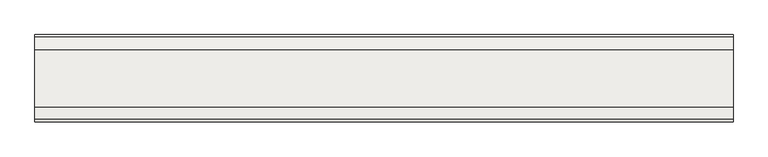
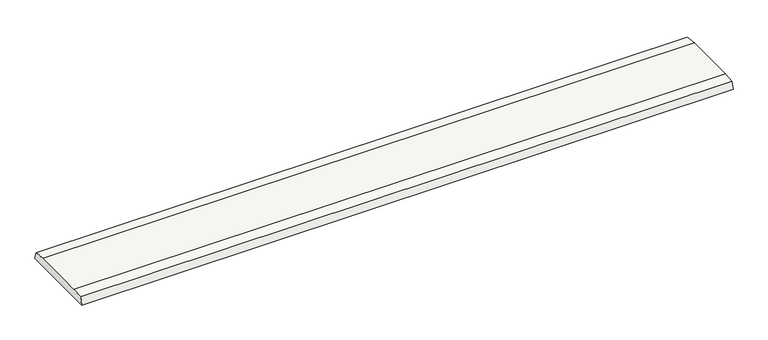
"""IFC4 building model written with IfcOpenShell, lengths in millimetres: slab geometry, ROSA GRES_245 CM_Colocación en plano : Rejilla 245 CM_Tao_Beige_Anti-Slip."""

from ifc_helpers import new_model, si_unit, point, frame, frame_2d, origin, place, context, project, spatial, polyline, circle_curve, trimmed, segment, composite_curve, outline, extrude, source, transform, mapped, element, save


def slab_8ee4e33a(model_context):
    return source(origin(), model_context, "Body", "SweptSolid", [
        extrude(outline(composite_curve([segment(polyline([(242.0848264, -3.0209998), (248.9615625, -25.0413492), (0.0, -25.0413492), (6.8503894, -3.0704499)]), True, "CONTINUOUS"), segment(trimmed(circle_curve(frame_2d((86.2847076, -720.2412375)), 721.556477), [point((6.8503894, -3.0704499))], [point((42.7380732, 0.0))], False, "CARTESIAN"), True, "CONTINUOUS"), segment(polyline([(42.7380732, 0.0), (206.6448784, 0.0)]), True, "CONTINUOUS"), segment(trimmed(circle_curve(frame_2d((163.0982439, -720.2412375)), 721.556477), [point((206.6448784, 0.0))], [point((242.0848264, -3.0209998))], False, "CARTESIAN"), True, "CONTINUOUS")], self_intersect=False)), frame((0.0, 0.0, 0.0), z_axis=(1.0, 0.0, 0.0), x_axis=(0.0, 1.0, 0.0)), (0.0, 0.0, 1.0), 1990.5),
    ])


if __name__ == "__main__":
    model = new_model("IFC4")
    model_context = context("Model", 3, world=origin())
    ifc_project = project(units=[si_unit("LENGTHUNIT", "METRE", prefix="MILLI")], contexts=[model_context])
    site = spatial("IfcSite", under=ifc_project)
    building = spatial("IfcBuilding", under=site)
    placement = place(None, origin())
    slab_shape = slab_8ee4e33a(model_context)
    element("IfcSlab", 1, ObjectType="ROSA GRES_245 CM_Colocación en plano : Rejilla 245 CM_Tao_Beige_Anti-Slip", at=placement, inside=building, context=model_context, shape_type="MappedRepresentation", body=[
        mapped(slab_shape, transform((0.0, 0.0, 0.0), x_axis=(1.0, 0.0, 0.0), y_axis=(0.0, 1.0, 0.0), z_axis=(0.0, 0.0, 1.0))),
    ])
    save(model, "model.ifc")
